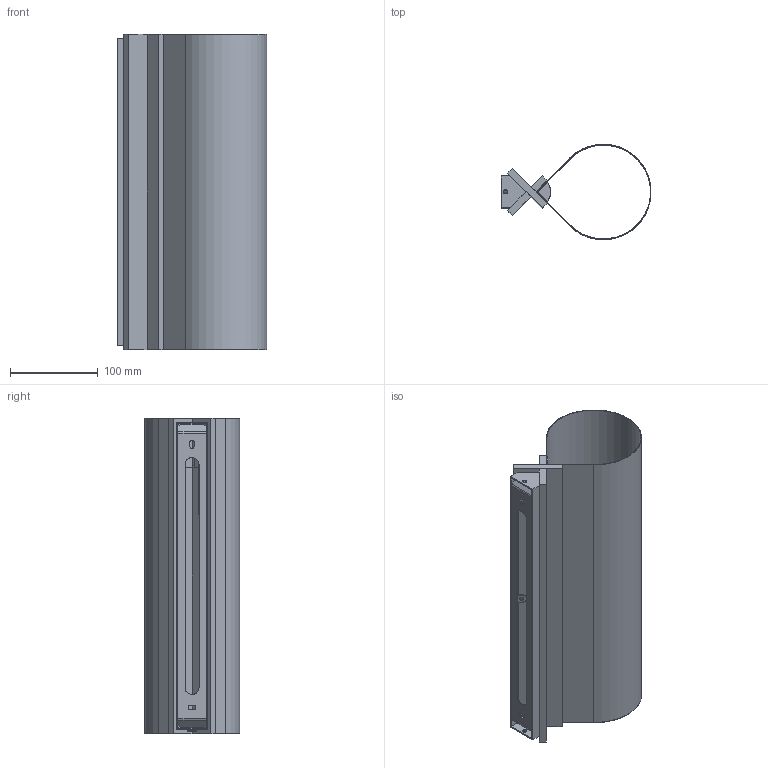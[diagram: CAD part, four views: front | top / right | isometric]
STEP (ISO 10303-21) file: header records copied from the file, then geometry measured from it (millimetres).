
FILE_DESCRIPTION(/* description */ (''),/* implementation_level */ '2;1');
FILE_NAME(/* name */ '20328_3d',/* time_stamp */ '2026-05-05T12:00:29+02:00',/* author */ (''),/* organization */ (''),/* preprocessor_version */ 'ST-DEVELOPER v19.2',/* originating_system */ 'Rhino 8.30',/* authorisation */ '');
FILE_SCHEMA (('CONFIG_CONTROL_DESIGN'));
Length unit declared in the file: millimetre
Products named in the file (1): Document
Bounding box: 170.95 x 108.36 x 360 mm (x, y, z)
Surface area: 440087.9 mm2 (no closed solid volume)
Topology: 0 solids, 372 shells, 372 faces, 1655 edges, 1655 vertices
Faces by surface type: plane 209, cylinder 152, bspline 11
Entity records: 19305 total; most frequent: CARTESIAN_POINT 8541, ORIENTED_EDGE 1655, EDGE_CURVE 1655, VERTEX_POINT 1655, B_SPLINE_CURVE_WITH_KNOTS 1174, DIRECTION 975, AXIS2_PLACEMENT_3D 668, EDGE_LOOP 425
